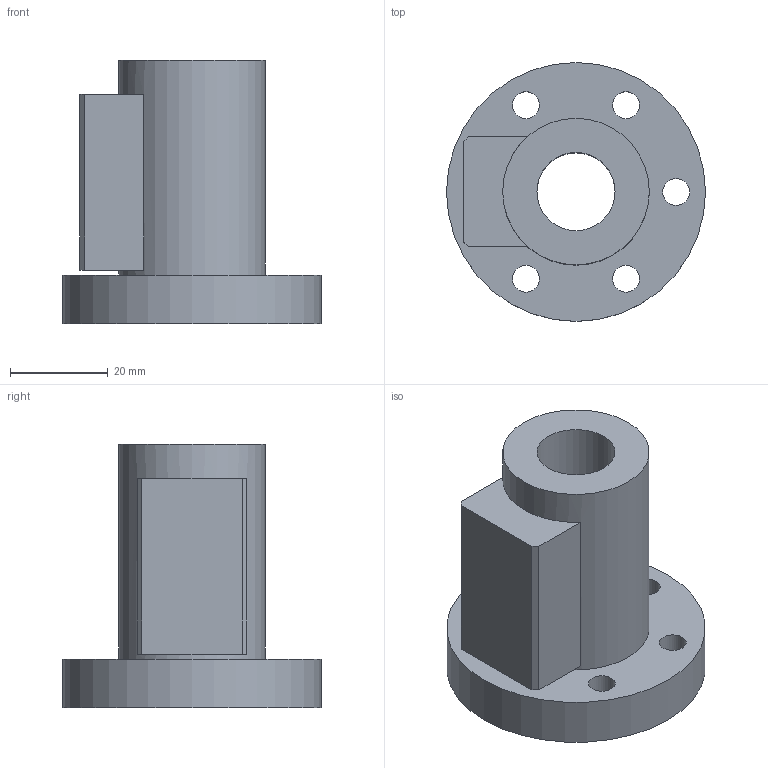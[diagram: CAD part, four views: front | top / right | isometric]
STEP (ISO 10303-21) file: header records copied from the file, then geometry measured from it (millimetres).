
FILE_DESCRIPTION(/* description */ (''),/* implementation_level */ '2;1');
FILE_NAME(/* name */ '16-10B1',/* time_stamp */ '2006-06-16T09:35:51+08:00',/* author */ (''),/* organization */ (''),/* preprocessor_version */ 'ST-DEVELOPER v9',/* originating_system */ 'UGS - NX 4.0',/* authorisation */ '');
FILE_SCHEMA (('CONFIG_CONTROL_DESIGN'));
Length unit declared in the file: millimetre
Products named in the file (1): 16-10B1
Bounding box: 53 x 53 x 54 mm (x, y, z)
Volume: 47528.9 mm3; surface area: 14730.2 mm2
Topology: 1 solids, 1 shells, 28 faces, 61 edges, 42 vertices
Faces by surface type: plane 15, cylinder 13
Full cylindrical faces by diameter (mm): 5.5 x5, 9.5 x5, 16 x1, 30 x1, 53 x1
Entity records: 794 total; most frequent: DIRECTION 130, CARTESIAN_POINT 111, ORIENTED_EDGE 88, EDGE_LOOP 60, AXIS2_PLACEMENT_3D 57, FACE_BOUND 45, EDGE_CURVE 44, VERTEX_POINT 38
